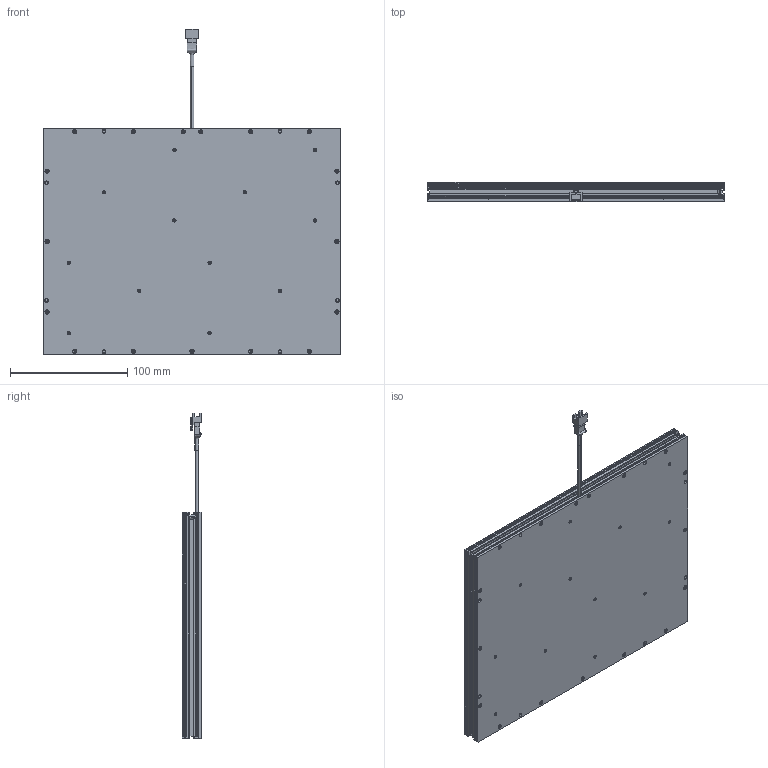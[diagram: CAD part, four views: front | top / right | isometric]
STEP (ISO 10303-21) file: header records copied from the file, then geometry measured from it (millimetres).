
FILE_DESCRIPTION (( 'STEP AP214' ), '1' );
FILE_NAME ('TMDF3007D101A_VDF-240180.STEP', '2023-03-24T03:43:31', ( '' ), ( '' ), 'SwSTEP 2.0', 'SolidWorks 2018', '' );
FILE_SCHEMA (( 'AUTOMOTIVE_DESIGN' ));
Length unit declared in the file: millimetre
Products named in the file (1): TMDF3007D101A_VDF-240180
Bounding box: 253 x 16.55 x 277.45 mm (x, y, z)
Surface area: 187098.6 mm2 (no closed solid volume)
Topology: 0 solids, 65 shells, 709 faces, 2540 edges, 1854 vertices
Faces by surface type: plane 423, cylinder 202, cone 82, bspline 2
Entity records: 36285 total; most frequent: CARTESIAN_POINT 6644, DIRECTION 4547, ORIENTED_EDGE 3928, EDGE_CURVE 2540, VERTEX_POINT 1854, VECTOR 1781, LINE 1781, AXIS2_PLACEMENT_3D 1383
